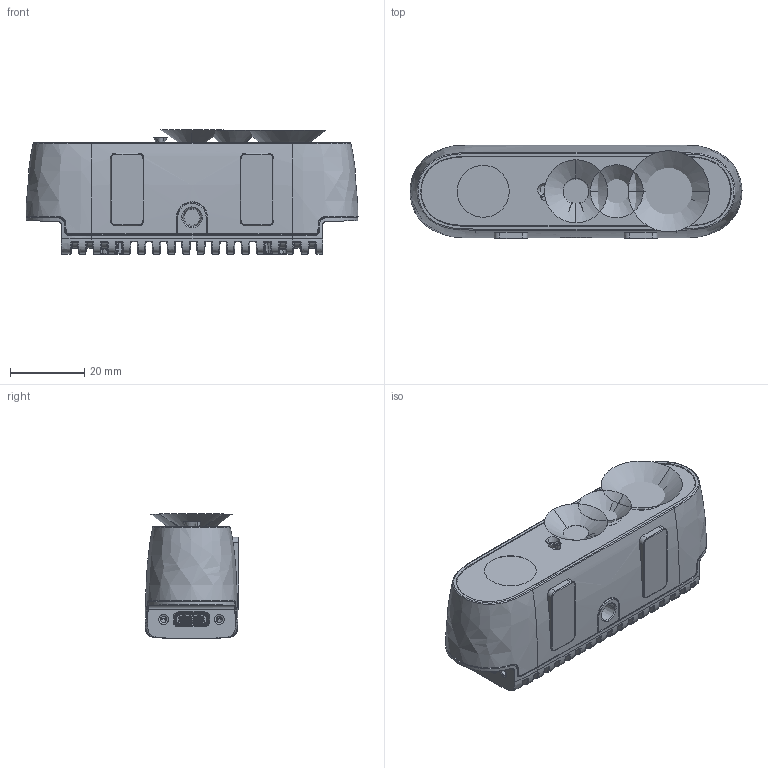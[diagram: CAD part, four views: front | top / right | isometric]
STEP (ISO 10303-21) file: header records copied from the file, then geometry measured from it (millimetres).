
FILE_DESCRIPTION(('CATIA V5 STEP Exchange'),'2;1');
FILE_NAME('\\10.10.20.13\智能视觉事业群\01.3D传感技术研发中心\结构组-share\00_外发客户资料\04-2024年项目\03_G2RL\G2 G2R Gemini 2 330 335\Gemini 2 Gemini 335\02 3D\@[3D][STP]Gemini 2 Gemini 335 Asm with FOV_20240523.stp','2024-07-02T07:34:04+00:00',('none'),('none'),'CATIA Version 5 Release 21 GA (IN-10)','CATIA V5 STEP AP203 Edition 2','none');
FILE_SCHEMA(('AP203_CONFIGURATION_CONTROLLED_3D_DESIGN_OF_MECHANICAL_PARTS_AND_ASSEMBLIES_MIM_LF { 1 0 10303 403 2 1 2}'));
Length unit declared in the file: millimetre
Products named in the file (12): _3D_STP_GEMINI 2 Gemini 335_ASM_WITH_FOV_ASM; 00_1-35637_1_2_1; 00_1-36659_1_1_1; SILICONE_PAD_1_1_1_1_1; SILICONE_PAD_1_2_1_1_1; BRACKET_MAX_1_1_1_1; PRT0002_1_1_1_1; SCREW_CM2X035-035X1_1_1_1_1; CX90B1-_1_1; DS6_1_2; MDE_1_3; LENS_SP_1_2
Assembly tree (16 placements, depth 2):
  _3D_STP_GEMINI 2 Gemini 335_ASM_WITH_FOV_ASM
    00_1-35637_1_2_1
    00_1-36659_1_1_1
    SILICONE_PAD_1_1_1_1_1
    SILICONE_PAD_1_2_1_1_1
    BRACKET_MAX_1_1_1_1
    PRT0002_1_1_1_1
    SCREW_CM2X035-035X1_1_1_1_1  x4
    CX90B1-_1_1
    DS6_1_2
    MDE_1_3  x2
    LENS_SP_1_2  x2
Bounding box: 89.46 x 25.31 x 33.43 mm (x, y, z)
Volume: 20070.5 mm3; surface area: 27608.8 mm2
Topology: 15 solids, 47 shells, 4226 faces, 10878 edges, 6727 vertices
Faces by surface type: plane 1755, cylinder 1186, bspline 663, cone 323, torus 247, extrusion 35, revolution 14, sphere 3
Entity records: 186576 total; most frequent: CARTESIAN_POINT 87933, ORIENTED_EDGE 19656, DIRECTION 13232, EDGE_CURVE 9838, VERTEX_POINT 6111, VECTOR 5277, LINE 5242, AXIS2_PLACEMENT_3D 4746
